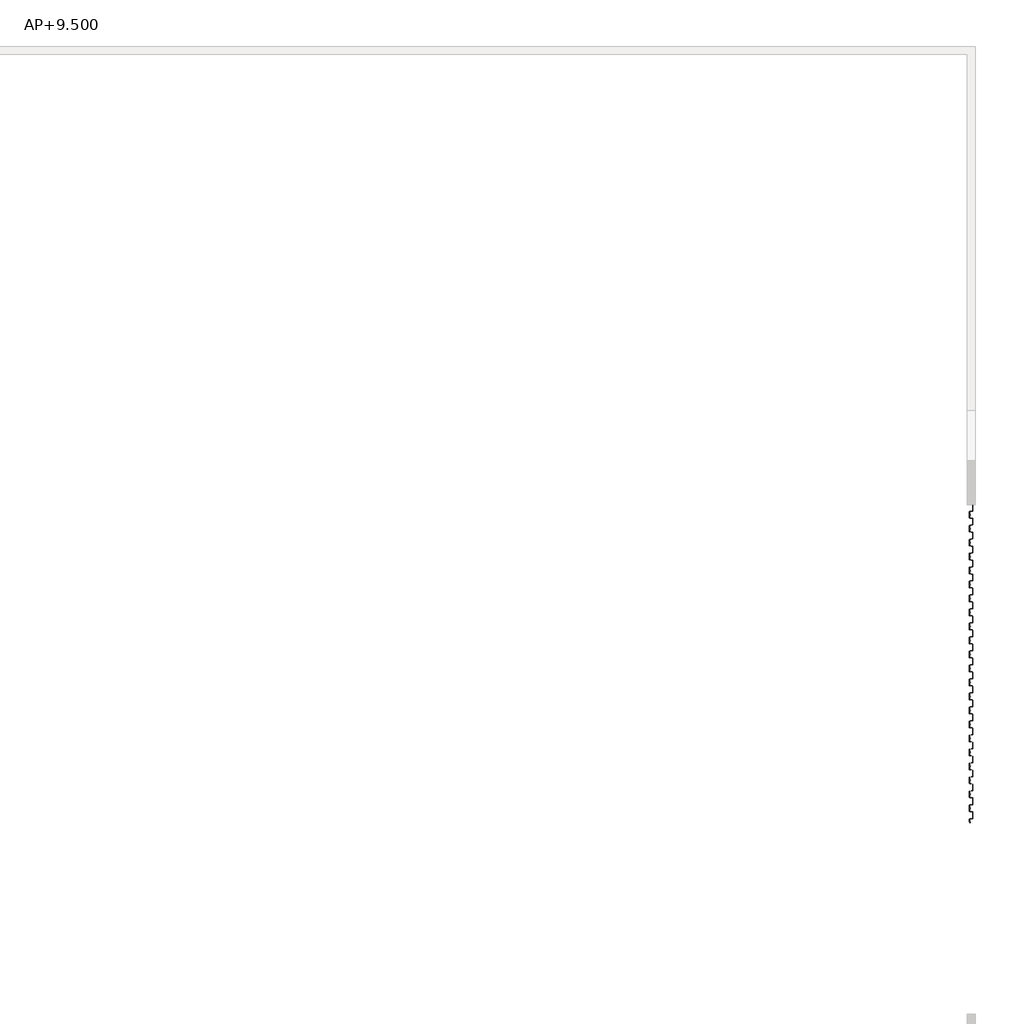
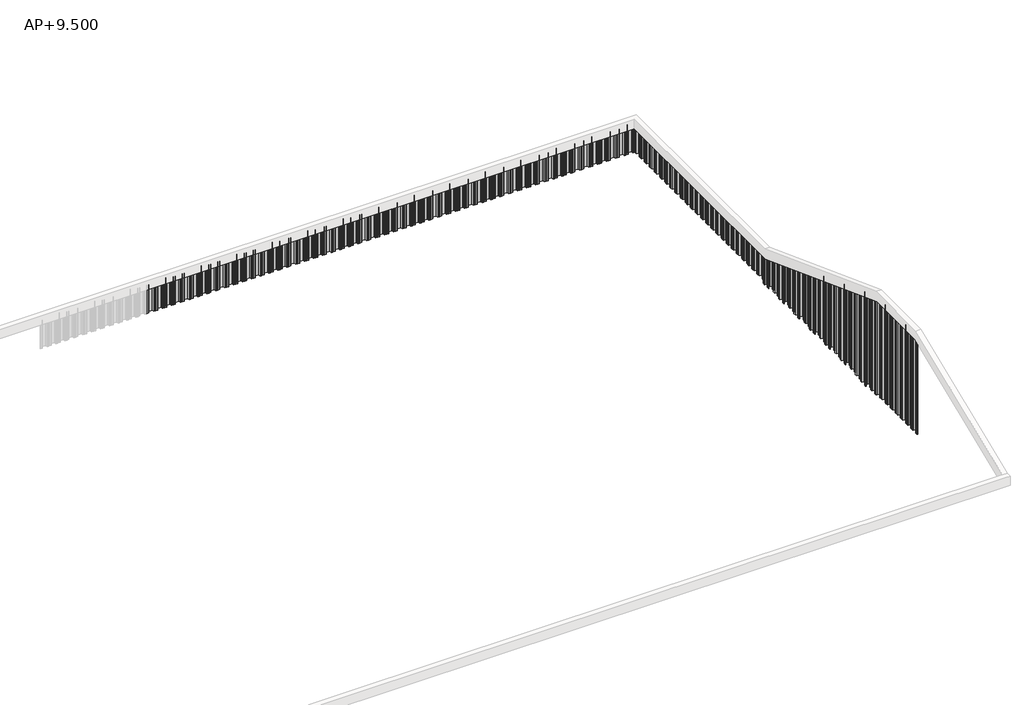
# One storey, part 3 of 3: 110 proxies.
"""IFC4 building model written with IfcOpenShell, lengths in millimetres."""

from ifc_helpers import new_model, si_unit, origin, place, context, project, spatial, transform, mapped, element, save
from components import generic_models_baafeade, generic_models_7553901d, generic_models_cdec1266, generic_models_6a52f8d3, generic_models_769bab11, generic_models_eddb28b0, generic_models_b851e550, generic_models_f981eec5, generic_models_fa2cd2e8, generic_models_5c6d3e61, generic_models_5d25678b, generic_models_d380ba2e, generic_models_831c492c, generic_models_77be9fe8, generic_models_16d24312, generic_models_580ca2bd

model = new_model("IFC4")

# Units and contexts
model_context = context("Model", 3, world=origin())
ifc_project = project(units=[si_unit("LENGTHUNIT", "METRE", prefix="MILLI")], contexts=[model_context])

# Site, building, storey
site = spatial("IfcSite", under=ifc_project)
building = spatial("IfcBuilding", under=site)
storey = spatial("IfcBuildingStorey", under=building, Name="AP+9.500", Elevation=9500.0)

# Proxies
placement = place(None, origin())
generic_models_shape = generic_models_baafeade(model_context)
element("IfcBuildingElementProxy", 1, Name="鋼矢板10H型 : 鋼矢板10H型", ObjectType="鋼矢板10H型 : 鋼矢板10H型", at=placement, inside=storey, context=model_context, shape_type="MappedRepresentation", body=[
    mapped(generic_models_shape, transform((89232.0, 49750.0, 8850.0), x_axis=(1.0, 0.0, 0.0), y_axis=(0.0, 1.0, 0.0), z_axis=(0.0, 0.0, 1.0))),
])
element("IfcBuildingElementProxy", 2, Name="鋼矢板10H型 : 鋼矢板10H型", ObjectType="鋼矢板10H型 : 鋼矢板10H型", at=placement, inside=storey, context=model_context, shape_type="MappedRepresentation", body=[
    mapped(generic_models_shape, transform((89754.0, 49105.0, 8850.0), x_axis=(0.0, -1.0, 0.0), y_axis=(1.0, 0.0, 0.0), z_axis=(0.0, 0.0, 1.0))),
])
element("IfcBuildingElementProxy", 3, Name="鋼矢板10H型 : 鋼矢板10H型", ObjectType="鋼矢板10H型 : 鋼矢板10H型", at=placement, inside=storey, context=model_context, shape_type="MappedRepresentation", body=[
    mapped(generic_models_shape, transform((88332.0, 49750.0, 8850.0), x_axis=(1.0, 0.0, 0.0), y_axis=(0.0, 1.0, 0.0), z_axis=(0.0, 0.0, 1.0))),
])
element("IfcBuildingElementProxy", 4, Name="鋼矢板10H型 : 鋼矢板10H型", ObjectType="鋼矢板10H型 : 鋼矢板10H型", at=placement, inside=storey, context=model_context, shape_type="MappedRepresentation", body=[
    mapped(generic_models_shape, transform((87432.0, 49750.0, 8850.0), x_axis=(1.0, 0.0, 0.0), y_axis=(0.0, 1.0, 0.0), z_axis=(0.0, 0.0, 1.0))),
])
element("IfcBuildingElementProxy", 5, Name="鋼矢板10H型 : 鋼矢板10H型", ObjectType="鋼矢板10H型 : 鋼矢板10H型", at=placement, inside=storey, context=model_context, shape_type="MappedRepresentation", body=[
    mapped(generic_models_shape, transform((86532.0, 49750.0, 8850.0), x_axis=(1.0, 0.0, 0.0), y_axis=(0.0, 1.0, 0.0), z_axis=(0.0, 0.0, 1.0))),
])
element("IfcBuildingElementProxy", 6, Name="鋼矢板10H型 : 鋼矢板10H型", ObjectType="鋼矢板10H型 : 鋼矢板10H型", at=placement, inside=storey, context=model_context, shape_type="MappedRepresentation", body=[
    mapped(generic_models_shape, transform((85632.0, 49750.0, 8850.0), x_axis=(1.0, 0.0, 0.0), y_axis=(0.0, 1.0, 0.0), z_axis=(0.0, 0.0, 1.0))),
])
element("IfcBuildingElementProxy", 7, Name="鋼矢板10H型 : 鋼矢板10H型", ObjectType="鋼矢板10H型 : 鋼矢板10H型", at=placement, inside=storey, context=model_context, shape_type="MappedRepresentation", body=[
    mapped(generic_models_shape, transform((84732.0, 49750.0, 8850.0), x_axis=(1.0, 0.0, 0.0), y_axis=(0.0, 1.0, 0.0), z_axis=(0.0, 0.0, 1.0))),
])
element("IfcBuildingElementProxy", 8, Name="鋼矢板10H型 : 鋼矢板10H型", ObjectType="鋼矢板10H型 : 鋼矢板10H型", at=placement, inside=storey, context=model_context, shape_type="MappedRepresentation", body=[
    mapped(generic_models_shape, transform((83832.0, 49750.0, 8850.0), x_axis=(1.0, 0.0, 0.0), y_axis=(0.0, 1.0, 0.0), z_axis=(0.0, 0.0, 1.0))),
])
element("IfcBuildingElementProxy", 9, Name="鋼矢板10H型 : 鋼矢板10H型", ObjectType="鋼矢板10H型 : 鋼矢板10H型", at=placement, inside=storey, context=model_context, shape_type="MappedRepresentation", body=[
    mapped(generic_models_shape, transform((82932.0, 49750.0, 8850.0), x_axis=(1.0, 0.0, 0.0), y_axis=(0.0, 1.0, 0.0), z_axis=(0.0, 0.0, 1.0))),
])
element("IfcBuildingElementProxy", 10, Name="鋼矢板10H型 : 鋼矢板10H型", ObjectType="鋼矢板10H型 : 鋼矢板10H型", at=placement, inside=storey, context=model_context, shape_type="MappedRepresentation", body=[
    mapped(generic_models_shape, transform((82032.0, 49750.0, 8850.0), x_axis=(1.0, 0.0, 0.0), y_axis=(0.0, 1.0, 0.0), z_axis=(0.0, 0.0, 1.0))),
])
element("IfcBuildingElementProxy", 11, Name="鋼矢板10H型 : 鋼矢板10H型", ObjectType="鋼矢板10H型 : 鋼矢板10H型", at=placement, inside=storey, context=model_context, shape_type="MappedRepresentation", body=[
    mapped(generic_models_shape, transform((81132.0, 49750.0, 8850.0), x_axis=(1.0, 0.0, 0.0), y_axis=(0.0, 1.0, 0.0), z_axis=(0.0, 0.0, 1.0))),
])
element("IfcBuildingElementProxy", 12, Name="鋼矢板10H型 : 鋼矢板10H型", ObjectType="鋼矢板10H型 : 鋼矢板10H型", at=placement, inside=storey, context=model_context, shape_type="MappedRepresentation", body=[
    mapped(generic_models_shape, transform((80232.0, 49750.0, 8850.0), x_axis=(1.0, 0.0, 0.0), y_axis=(0.0, 1.0, 0.0), z_axis=(0.0, 0.0, 1.0))),
])
element("IfcBuildingElementProxy", 13, Name="鋼矢板10H型 : 鋼矢板10H型", ObjectType="鋼矢板10H型 : 鋼矢板10H型", at=placement, inside=storey, context=model_context, shape_type="MappedRepresentation", body=[
    mapped(generic_models_shape, transform((79332.0, 49750.0, 8850.0), x_axis=(1.0, 0.0, 0.0), y_axis=(0.0, 1.0, 0.0), z_axis=(0.0, 0.0, 1.0))),
])
element("IfcBuildingElementProxy", 14, Name="鋼矢板10H型 : 鋼矢板10H型", ObjectType="鋼矢板10H型 : 鋼矢板10H型", at=placement, inside=storey, context=model_context, shape_type="MappedRepresentation", body=[
    mapped(generic_models_shape, transform((78432.0, 49750.0, 8850.0), x_axis=(1.0, 0.0, 0.0), y_axis=(0.0, 1.0, 0.0), z_axis=(0.0, 0.0, 1.0))),
])
element("IfcBuildingElementProxy", 15, Name="鋼矢板10H型 : 鋼矢板10H型", ObjectType="鋼矢板10H型 : 鋼矢板10H型", at=placement, inside=storey, context=model_context, shape_type="MappedRepresentation", body=[
    mapped(generic_models_shape, transform((77532.0, 49750.0, 8850.0), x_axis=(1.0, 0.0, 0.0), y_axis=(0.0, 1.0, 0.0), z_axis=(0.0, 0.0, 1.0))),
])
element("IfcBuildingElementProxy", 16, Name="鋼矢板10H型 : 鋼矢板10H型", ObjectType="鋼矢板10H型 : 鋼矢板10H型", at=placement, inside=storey, context=model_context, shape_type="MappedRepresentation", body=[
    mapped(generic_models_shape, transform((76632.0, 49750.0, 8850.0), x_axis=(1.0, 0.0, 0.0), y_axis=(0.0, 1.0, 0.0), z_axis=(0.0, 0.0, 1.0))),
])
element("IfcBuildingElementProxy", 17, Name="鋼矢板10H型 : 鋼矢板10H型", ObjectType="鋼矢板10H型 : 鋼矢板10H型", at=placement, inside=storey, context=model_context, shape_type="MappedRepresentation", body=[
    mapped(generic_models_shape, transform((75732.0, 49750.0, 8850.0), x_axis=(1.0, 0.0, 0.0), y_axis=(0.0, 1.0, 0.0), z_axis=(0.0, 0.0, 1.0))),
])
element("IfcBuildingElementProxy", 18, Name="鋼矢板10H型 : 鋼矢板10H型", ObjectType="鋼矢板10H型 : 鋼矢板10H型", at=placement, inside=storey, context=model_context, shape_type="MappedRepresentation", body=[
    mapped(generic_models_shape, transform((74832.0, 49750.0, 8850.0), x_axis=(1.0, 0.0, 0.0), y_axis=(0.0, 1.0, 0.0), z_axis=(0.0, 0.0, 1.0))),
])
element("IfcBuildingElementProxy", 19, Name="鋼矢板10H型 : 鋼矢板10H型", ObjectType="鋼矢板10H型 : 鋼矢板10H型", at=placement, inside=storey, context=model_context, shape_type="MappedRepresentation", body=[
    mapped(generic_models_shape, transform((73932.0, 49750.0, 8850.0), x_axis=(1.0, 0.0, 0.0), y_axis=(0.0, 1.0, 0.0), z_axis=(0.0, 0.0, 1.0))),
])
element("IfcBuildingElementProxy", 20, Name="鋼矢板10H型 : 鋼矢板10H型", ObjectType="鋼矢板10H型 : 鋼矢板10H型", at=placement, inside=storey, context=model_context, shape_type="MappedRepresentation", body=[
    mapped(generic_models_shape, transform((73032.0, 49750.0, 8850.0), x_axis=(1.0, 0.0, 0.0), y_axis=(0.0, 1.0, 0.0), z_axis=(0.0, 0.0, 1.0))),
])
element("IfcBuildingElementProxy", 21, Name="鋼矢板10H型 : 鋼矢板10H型", ObjectType="鋼矢板10H型 : 鋼矢板10H型", at=placement, inside=storey, context=model_context, shape_type="MappedRepresentation", body=[
    mapped(generic_models_shape, transform((72132.0, 49750.0, 8850.0), x_axis=(1.0, 0.0, 0.0), y_axis=(0.0, 1.0, 0.0), z_axis=(0.0, 0.0, 1.0))),
])
element("IfcBuildingElementProxy", 22, Name="鋼矢板10H型 : 鋼矢板10H型", ObjectType="鋼矢板10H型 : 鋼矢板10H型", at=placement, inside=storey, context=model_context, shape_type="MappedRepresentation", body=[
    mapped(generic_models_shape, transform((71232.0, 49750.0, 8850.0), x_axis=(1.0, 0.0, 0.0), y_axis=(0.0, 1.0, 0.0), z_axis=(0.0, 0.0, 1.0))),
])
element("IfcBuildingElementProxy", 23, Name="鋼矢板10H型 : 鋼矢板10H型", ObjectType="鋼矢板10H型 : 鋼矢板10H型", at=placement, inside=storey, context=model_context, shape_type="MappedRepresentation", body=[
    mapped(generic_models_shape, transform((70332.0, 49750.0, 8850.0), x_axis=(1.0, 0.0, 0.0), y_axis=(0.0, 1.0, 0.0), z_axis=(0.0, 0.0, 1.0))),
])
element("IfcBuildingElementProxy", 24, Name="鋼矢板10H型 : 鋼矢板10H型", ObjectType="鋼矢板10H型 : 鋼矢板10H型", at=placement, inside=storey, context=model_context, shape_type="MappedRepresentation", body=[
    mapped(generic_models_shape, transform((69432.0, 49750.0, 8850.0), x_axis=(1.0, 0.0, 0.0), y_axis=(0.0, 1.0, 0.0), z_axis=(0.0, 0.0, 1.0))),
])
element("IfcBuildingElementProxy", 25, Name="鋼矢板10H型 : 鋼矢板10H型", ObjectType="鋼矢板10H型 : 鋼矢板10H型", at=placement, inside=storey, context=model_context, shape_type="MappedRepresentation", body=[
    mapped(generic_models_shape, transform((68532.0, 49750.0, 8850.0), x_axis=(1.0, 0.0, 0.0), y_axis=(0.0, 1.0, 0.0), z_axis=(0.0, 0.0, 1.0))),
])
element("IfcBuildingElementProxy", 26, Name="鋼矢板10H型 : 鋼矢板10H型", ObjectType="鋼矢板10H型 : 鋼矢板10H型", at=placement, inside=storey, context=model_context, shape_type="MappedRepresentation", body=[
    mapped(generic_models_shape, transform((67632.0, 49750.0, 8850.0), x_axis=(1.0, 0.0, 0.0), y_axis=(0.0, 1.0, 0.0), z_axis=(0.0, 0.0, 1.0))),
])
element("IfcBuildingElementProxy", 27, Name="鋼矢板10H型 : 鋼矢板10H型", ObjectType="鋼矢板10H型 : 鋼矢板10H型", at=placement, inside=storey, context=model_context, shape_type="MappedRepresentation", body=[
    mapped(generic_models_shape, transform((66732.0, 49750.0, 8850.0), x_axis=(1.0, 0.0, 0.0), y_axis=(0.0, 1.0, 0.0), z_axis=(0.0, 0.0, 1.0))),
])
element("IfcBuildingElementProxy", 28, Name="鋼矢板10H型 : 鋼矢板10H型", ObjectType="鋼矢板10H型 : 鋼矢板10H型", at=placement, inside=storey, context=model_context, shape_type="MappedRepresentation", body=[
    mapped(generic_models_shape, transform((65832.0, 49750.0, 8850.0), x_axis=(1.0, 0.0, 0.0), y_axis=(0.0, 1.0, 0.0), z_axis=(0.0, 0.0, 1.0))),
])
element("IfcBuildingElementProxy", 29, Name="鋼矢板10H型 : 鋼矢板10H型", ObjectType="鋼矢板10H型 : 鋼矢板10H型", at=placement, inside=storey, context=model_context, shape_type="MappedRepresentation", body=[
    mapped(generic_models_shape, transform((64932.0, 49750.0, 8850.0), x_axis=(1.0, 0.0, 0.0), y_axis=(0.0, 1.0, 0.0), z_axis=(0.0, 0.0, 1.0))),
])
element("IfcBuildingElementProxy", 30, Name="鋼矢板10H型 : 鋼矢板10H型", ObjectType="鋼矢板10H型 : 鋼矢板10H型", at=placement, inside=storey, context=model_context, shape_type="MappedRepresentation", body=[
    mapped(generic_models_shape, transform((64032.0, 49750.0, 8850.0), x_axis=(1.0, 0.0, 0.0), y_axis=(0.0, 1.0, 0.0), z_axis=(0.0, 0.0, 1.0))),
])
element("IfcBuildingElementProxy", 31, Name="鋼矢板10H型 : 鋼矢板10H型", ObjectType="鋼矢板10H型 : 鋼矢板10H型", at=placement, inside=storey, context=model_context, shape_type="MappedRepresentation", body=[
    mapped(generic_models_shape, transform((63132.0, 49750.0, 8850.0), x_axis=(1.0, 0.0, 0.0), y_axis=(0.0, 1.0, 0.0), z_axis=(0.0, 0.0, 1.0))),
])
element("IfcBuildingElementProxy", 32, Name="鋼矢板10H型 : 鋼矢板10H型", ObjectType="鋼矢板10H型 : 鋼矢板10H型", at=placement, inside=storey, context=model_context, shape_type="MappedRepresentation", body=[
    mapped(generic_models_shape, transform((62232.0, 49750.0, 8850.0), x_axis=(1.0, 0.0, 0.0), y_axis=(0.0, 1.0, 0.0), z_axis=(0.0, 0.0, 1.0))),
])
element("IfcBuildingElementProxy", 33, Name="鋼矢板10H型 : 鋼矢板10H型", ObjectType="鋼矢板10H型 : 鋼矢板10H型", at=placement, inside=storey, context=model_context, shape_type="MappedRepresentation", body=[
    mapped(generic_models_shape, transform((61332.0, 49750.0, 8850.0), x_axis=(1.0, 0.0, 0.0), y_axis=(0.0, 1.0, 0.0), z_axis=(0.0, 0.0, 1.0))),
])
element("IfcBuildingElementProxy", 34, Name="鋼矢板10H型 : 鋼矢板10H型", ObjectType="鋼矢板10H型 : 鋼矢板10H型", at=placement, inside=storey, context=model_context, shape_type="MappedRepresentation", body=[
    mapped(generic_models_shape, transform((60432.0, 49750.0, 8850.0), x_axis=(1.0, 0.0, 0.0), y_axis=(0.0, 1.0, 0.0), z_axis=(0.0, 0.0, 1.0))),
])
element("IfcBuildingElementProxy", 35, Name="鋼矢板10H型 : 鋼矢板10H型", ObjectType="鋼矢板10H型 : 鋼矢板10H型", at=placement, inside=storey, context=model_context, shape_type="MappedRepresentation", body=[
    mapped(generic_models_shape, transform((59532.0, 49750.0, 8850.0), x_axis=(1.0, 0.0, 0.0), y_axis=(0.0, 1.0, 0.0), z_axis=(0.0, 0.0, 1.0))),
])
element("IfcBuildingElementProxy", 36, Name="鋼矢板10H型 : 鋼矢板10H型", ObjectType="鋼矢板10H型 : 鋼矢板10H型", at=placement, inside=storey, context=model_context, shape_type="MappedRepresentation", body=[
    mapped(generic_models_shape, transform((58632.0, 49750.0, 8850.0), x_axis=(1.0, 0.0, 0.0), y_axis=(0.0, 1.0, 0.0), z_axis=(0.0, 0.0, 1.0))),
])
element("IfcBuildingElementProxy", 37, Name="鋼矢板10H型 : 鋼矢板10H型", ObjectType="鋼矢板10H型 : 鋼矢板10H型", at=placement, inside=storey, context=model_context, shape_type="MappedRepresentation", body=[
    mapped(generic_models_shape, transform((57732.0, 49750.0, 8850.0), x_axis=(1.0, 0.0, 0.0), y_axis=(0.0, 1.0, 0.0), z_axis=(0.0, 0.0, 1.0))),
])
element("IfcBuildingElementProxy", 38, Name="鋼矢板10H型 : 鋼矢板10H型", ObjectType="鋼矢板10H型 : 鋼矢板10H型", at=placement, inside=storey, context=model_context, shape_type="MappedRepresentation", body=[
    mapped(generic_models_shape, transform((56832.0, 49750.0, 8850.0), x_axis=(1.0, 0.0, 0.0), y_axis=(0.0, 1.0, 0.0), z_axis=(0.0, 0.0, 1.0))),
])
element("IfcBuildingElementProxy", 39, Name="鋼矢板10H型 : 鋼矢板10H型", ObjectType="鋼矢板10H型 : 鋼矢板10H型", at=placement, inside=storey, context=model_context, shape_type="MappedRepresentation", body=[
    mapped(generic_models_shape, transform((55932.0, 49750.0, 8850.0), x_axis=(1.0, 0.0, 0.0), y_axis=(0.0, 1.0, 0.0), z_axis=(0.0, 0.0, 1.0))),
])
element("IfcBuildingElementProxy", 40, Name="鋼矢板10H型 : 鋼矢板10H型", ObjectType="鋼矢板10H型 : 鋼矢板10H型", at=placement, inside=storey, context=model_context, shape_type="MappedRepresentation", body=[
    mapped(generic_models_shape, transform((55032.0, 49750.0, 8850.0), x_axis=(1.0, 0.0, 0.0), y_axis=(0.0, 1.0, 0.0), z_axis=(0.0, 0.0, 1.0))),
])
element("IfcBuildingElementProxy", 41, Name="鋼矢板10H型 : 鋼矢板10H型", ObjectType="鋼矢板10H型 : 鋼矢板10H型", at=placement, inside=storey, context=model_context, shape_type="MappedRepresentation", body=[
    mapped(generic_models_shape, transform((54132.0, 49750.0, 8850.0), x_axis=(1.0, 0.0, 0.0), y_axis=(0.0, 1.0, 0.0), z_axis=(0.0, 0.0, 1.0))),
])
element("IfcBuildingElementProxy", 42, Name="鋼矢板10H型 : 鋼矢板10H型", ObjectType="鋼矢板10H型 : 鋼矢板10H型", at=placement, inside=storey, context=model_context, shape_type="MappedRepresentation", body=[
    mapped(generic_models_shape, transform((53232.0, 49750.0, 8850.0), x_axis=(1.0, 0.0, 0.0), y_axis=(0.0, 1.0, 0.0), z_axis=(0.0, 0.0, 1.0))),
])
element("IfcBuildingElementProxy", 43, Name="鋼矢板10H型 : 鋼矢板10H型", ObjectType="鋼矢板10H型 : 鋼矢板10H型", at=placement, inside=storey, context=model_context, shape_type="MappedRepresentation", body=[
    mapped(generic_models_shape, transform((52332.0, 49750.0, 8850.0), x_axis=(1.0, 0.0, 0.0), y_axis=(0.0, 1.0, 0.0), z_axis=(0.0, 0.0, 1.0))),
])
element("IfcBuildingElementProxy", 44, Name="鋼矢板10H型 : 鋼矢板10H型", ObjectType="鋼矢板10H型 : 鋼矢板10H型", at=placement, inside=storey, context=model_context, shape_type="MappedRepresentation", body=[
    mapped(generic_models_shape, transform((51432.0, 49750.0, 8850.0), x_axis=(1.0, 0.0, 0.0), y_axis=(0.0, 1.0, 0.0), z_axis=(0.0, 0.0, 1.0))),
])
element("IfcBuildingElementProxy", 45, Name="鋼矢板10H型 : 鋼矢板10H型", ObjectType="鋼矢板10H型 : 鋼矢板10H型", at=placement, inside=storey, context=model_context, shape_type="MappedRepresentation", body=[
    mapped(generic_models_shape, transform((50532.0, 49750.0, 8850.0), x_axis=(1.0, 0.0, 0.0), y_axis=(0.0, 1.0, 0.0), z_axis=(0.0, 0.0, 1.0))),
])
element("IfcBuildingElementProxy", 46, Name="鋼矢板10H型 : 鋼矢板10H型", ObjectType="鋼矢板10H型 : 鋼矢板10H型", at=placement, inside=storey, context=model_context, shape_type="MappedRepresentation", body=[
    mapped(generic_models_shape, transform((49632.0, 49750.0, 8850.0), x_axis=(1.0, 0.0, 0.0), y_axis=(0.0, 1.0, 0.0), z_axis=(0.0, 0.0, 1.0))),
])
element("IfcBuildingElementProxy", 47, Name="鋼矢板10H型 : 鋼矢板10H型", ObjectType="鋼矢板10H型 : 鋼矢板10H型", at=placement, inside=storey, context=model_context, shape_type="MappedRepresentation", body=[
    mapped(generic_models_shape, transform((48732.0, 49750.0, 8850.0), x_axis=(1.0, 0.0, 0.0), y_axis=(0.0, 1.0, 0.0), z_axis=(0.0, 0.0, 1.0))),
])
element("IfcBuildingElementProxy", 48, Name="鋼矢板10H型 : 鋼矢板10H型", ObjectType="鋼矢板10H型 : 鋼矢板10H型", at=placement, inside=storey, context=model_context, shape_type="MappedRepresentation", body=[
    mapped(generic_models_shape, transform((47832.0, 49750.0, 8850.0), x_axis=(1.0, 0.0, 0.0), y_axis=(0.0, 1.0, 0.0), z_axis=(0.0, 0.0, 1.0))),
])
element("IfcBuildingElementProxy", 49, Name="鋼矢板10H型 : 鋼矢板10H型", ObjectType="鋼矢板10H型 : 鋼矢板10H型", at=placement, inside=storey, context=model_context, shape_type="MappedRepresentation", body=[
    mapped(generic_models_shape, transform((46932.0, 49750.0, 8850.0), x_axis=(1.0, 0.0, 0.0), y_axis=(0.0, 1.0, 0.0), z_axis=(0.0, 0.0, 1.0))),
])
element("IfcBuildingElementProxy", 50, Name="鋼矢板10H型 : 鋼矢板10H型", ObjectType="鋼矢板10H型 : 鋼矢板10H型", at=placement, inside=storey, context=model_context, shape_type="MappedRepresentation", body=[
    mapped(generic_models_shape, transform((46032.0, 49750.0, 8850.0), x_axis=(1.0, 0.0, 0.0), y_axis=(0.0, 1.0, 0.0), z_axis=(0.0, 0.0, 1.0))),
])
element("IfcBuildingElementProxy", 51, Name="鋼矢板10H型 : 鋼矢板10H型", ObjectType="鋼矢板10H型 : 鋼矢板10H型", at=placement, inside=storey, context=model_context, shape_type="MappedRepresentation", body=[
    mapped(generic_models_shape, transform((45132.0, 49750.0, 8850.0), x_axis=(1.0, 0.0, 0.0), y_axis=(0.0, 1.0, 0.0), z_axis=(0.0, 0.0, 1.0))),
])
element("IfcBuildingElementProxy", 52, Name="鋼矢板10H型 : 鋼矢板10H型", ObjectType="鋼矢板10H型 : 鋼矢板10H型", at=placement, inside=storey, context=model_context, shape_type="MappedRepresentation", body=[
    mapped(generic_models_shape, transform((44232.0, 49750.0, 8850.0), x_axis=(1.0, 0.0, 0.0), y_axis=(0.0, 1.0, 0.0), z_axis=(0.0, 0.0, 1.0))),
])
element("IfcBuildingElementProxy", 53, Name="鋼矢板10H型 : 鋼矢板10H型", ObjectType="鋼矢板10H型 : 鋼矢板10H型", at=placement, inside=storey, context=model_context, shape_type="MappedRepresentation", body=[
    mapped(generic_models_shape, transform((43332.0, 49750.0, 8850.0), x_axis=(1.0, 0.0, 0.0), y_axis=(0.0, 1.0, 0.0), z_axis=(0.0, 0.0, 1.0))),
])
element("IfcBuildingElementProxy", 54, Name="鋼矢板10H型 : 鋼矢板10H型", ObjectType="鋼矢板10H型 : 鋼矢板10H型", at=placement, inside=storey, context=model_context, shape_type="MappedRepresentation", body=[
    mapped(generic_models_shape, transform((42432.0, 49750.0, 8850.0), x_axis=(1.0, 0.0, 0.0), y_axis=(0.0, 1.0, 0.0), z_axis=(0.0, 0.0, 1.0))),
])
element("IfcBuildingElementProxy", 55, Name="鋼矢板10H型 : 鋼矢板10H型", ObjectType="鋼矢板10H型 : 鋼矢板10H型", at=placement, inside=storey, context=model_context, shape_type="MappedRepresentation", body=[
    mapped(generic_models_shape, transform((41532.0, 49750.0, 8850.0), x_axis=(1.0, 0.0, 0.0), y_axis=(0.0, 1.0, 0.0), z_axis=(0.0, 0.0, 1.0))),
])
element("IfcBuildingElementProxy", 56, Name="鋼矢板10H型 : 鋼矢板10H型", ObjectType="鋼矢板10H型 : 鋼矢板10H型", at=placement, inside=storey, context=model_context, shape_type="MappedRepresentation", body=[
    mapped(generic_models_shape, transform((40632.0, 49750.0, 8850.0), x_axis=(1.0, 0.0, 0.0), y_axis=(0.0, 1.0, 0.0), z_axis=(0.0, 0.0, 1.0))),
])
element("IfcBuildingElementProxy", 57, Name="鋼矢板10H型 : 鋼矢板10H型", ObjectType="鋼矢板10H型 : 鋼矢板10H型", at=placement, inside=storey, context=model_context, shape_type="MappedRepresentation", body=[
    mapped(generic_models_shape, transform((89754.0, 48205.0, 8850.0), x_axis=(0.0, -1.0, 0.0), y_axis=(1.0, 0.0, 0.0), z_axis=(0.0, 0.0, 1.0))),
])
element("IfcBuildingElementProxy", 58, Name="鋼矢板10H型 : 鋼矢板10H型", ObjectType="鋼矢板10H型 : 鋼矢板10H型", at=placement, inside=storey, context=model_context, shape_type="MappedRepresentation", body=[
    mapped(generic_models_shape, transform((89754.0, 47305.0, 8850.0), x_axis=(0.0, -1.0, 0.0), y_axis=(1.0, 0.0, 0.0), z_axis=(0.0, 0.0, 1.0))),
])
element("IfcBuildingElementProxy", 59, Name="鋼矢板10H型 : 鋼矢板10H型", ObjectType="鋼矢板10H型 : 鋼矢板10H型", at=placement, inside=storey, context=model_context, shape_type="MappedRepresentation", body=[
    mapped(generic_models_shape, transform((89754.0, 46405.0, 8850.0), x_axis=(0.0, -1.0, 0.0), y_axis=(1.0, 0.0, 0.0), z_axis=(0.0, 0.0, 1.0))),
])
element("IfcBuildingElementProxy", 60, Name="鋼矢板10H型 : 鋼矢板10H型", ObjectType="鋼矢板10H型 : 鋼矢板10H型", at=placement, inside=storey, context=model_context, shape_type="MappedRepresentation", body=[
    mapped(generic_models_shape, transform((89754.0, 45505.0, 8850.0), x_axis=(0.0, -1.0, 0.0), y_axis=(1.0, 0.0, 0.0), z_axis=(0.0, 0.0, 1.0))),
])
element("IfcBuildingElementProxy", 61, Name="鋼矢板10H型 : 鋼矢板10H型", ObjectType="鋼矢板10H型 : 鋼矢板10H型", at=placement, inside=storey, context=model_context, shape_type="MappedRepresentation", body=[
    mapped(generic_models_shape, transform((89754.0, 44605.0, 8850.0), x_axis=(0.0, -1.0, 0.0), y_axis=(1.0, 0.0, 0.0), z_axis=(0.0, 0.0, 1.0))),
])
element("IfcBuildingElementProxy", 62, Name="鋼矢板10H型 : 鋼矢板10H型", ObjectType="鋼矢板10H型 : 鋼矢板10H型", at=placement, inside=storey, context=model_context, shape_type="MappedRepresentation", body=[
    mapped(generic_models_shape, transform((89754.0, 43705.0, 8850.0), x_axis=(0.0, -1.0, 0.0), y_axis=(1.0, 0.0, 0.0), z_axis=(0.0, 0.0, 1.0))),
])
element("IfcBuildingElementProxy", 63, Name="鋼矢板10H型 : 鋼矢板10H型", ObjectType="鋼矢板10H型 : 鋼矢板10H型", at=placement, inside=storey, context=model_context, shape_type="MappedRepresentation", body=[
    mapped(generic_models_shape, transform((89754.0, 42805.0, 8850.0), x_axis=(0.0, -1.0, 0.0), y_axis=(1.0, 0.0, 0.0), z_axis=(0.0, 0.0, 1.0))),
])
element("IfcBuildingElementProxy", 64, Name="鋼矢板10H型 : 鋼矢板10H型", ObjectType="鋼矢板10H型 : 鋼矢板10H型", at=placement, inside=storey, context=model_context, shape_type="MappedRepresentation", body=[
    mapped(generic_models_shape, transform((89754.0, 41905.0, 8850.0), x_axis=(0.0, -1.0, 0.0), y_axis=(1.0, 0.0, 0.0), z_axis=(0.0, 0.0, 1.0))),
])
element("IfcBuildingElementProxy", 65, Name="鋼矢板10H型 : 鋼矢板10H型", ObjectType="鋼矢板10H型 : 鋼矢板10H型", at=placement, inside=storey, context=model_context, shape_type="MappedRepresentation", body=[
    mapped(generic_models_shape, transform((89754.0, 41005.0, 8850.0), x_axis=(0.0, -1.0, 0.0), y_axis=(1.0, 0.0, 0.0), z_axis=(0.0, 0.0, 1.0))),
])
element("IfcBuildingElementProxy", 66, Name="鋼矢板10H型 : 鋼矢板10H型", ObjectType="鋼矢板10H型 : 鋼矢板10H型", at=placement, inside=storey, context=model_context, shape_type="MappedRepresentation", body=[
    mapped(generic_models_shape, transform((89754.0, 40105.0, 8850.0), x_axis=(0.0, -1.0, 0.0), y_axis=(1.0, 0.0, 0.0), z_axis=(0.0, 0.0, 1.0))),
])
element("IfcBuildingElementProxy", 67, Name="鋼矢板10H型 : 鋼矢板10H型", ObjectType="鋼矢板10H型 : 鋼矢板10H型", at=placement, inside=storey, context=model_context, shape_type="MappedRepresentation", body=[
    mapped(generic_models_shape, transform((89754.0, 39205.0, 8850.0), x_axis=(0.0, -1.0, 0.0), y_axis=(1.0, 0.0, 0.0), z_axis=(0.0, 0.0, 1.0))),
])
element("IfcBuildingElementProxy", 68, Name="鋼矢板10H型 : 鋼矢板10H型", ObjectType="鋼矢板10H型 : 鋼矢板10H型", at=placement, inside=storey, context=model_context, shape_type="MappedRepresentation", body=[
    mapped(generic_models_shape, transform((89754.0, 38305.0, 8850.0), x_axis=(0.0, -1.0, 0.0), y_axis=(1.0, 0.0, 0.0), z_axis=(0.0, 0.0, 1.0))),
])
element("IfcBuildingElementProxy", 69, Name="鋼矢板10H型 : 鋼矢板10H型", ObjectType="鋼矢板10H型 : 鋼矢板10H型", at=placement, inside=storey, context=model_context, shape_type="MappedRepresentation", body=[
    mapped(generic_models_shape, transform((89754.0, 37405.0, 8850.0), x_axis=(0.0, -1.0, 0.0), y_axis=(1.0, 0.0, 0.0), z_axis=(0.0, 0.0, 1.0))),
])
element("IfcBuildingElementProxy", 70, Name="鋼矢板10H型 : 鋼矢板10H型", ObjectType="鋼矢板10H型 : 鋼矢板10H型", at=placement, inside=storey, context=model_context, shape_type="MappedRepresentation", body=[
    mapped(generic_models_shape, transform((89754.0, 36505.0, 8850.0), x_axis=(0.0, -1.0, 0.0), y_axis=(1.0, 0.0, 0.0), z_axis=(0.0, 0.0, 1.0))),
])
element("IfcBuildingElementProxy", 71, Name="鋼矢板10H型 : 鋼矢板10H型", ObjectType="鋼矢板10H型 : 鋼矢板10H型", at=placement, inside=storey, context=model_context, shape_type="MappedRepresentation", body=[
    mapped(generic_models_shape, transform((89754.0, 35605.0, 8850.0), x_axis=(0.0, -1.0, 0.0), y_axis=(1.0, 0.0, 0.0), z_axis=(0.0, 0.0, 1.0))),
])
element("IfcBuildingElementProxy", 72, Name="鋼矢板10H型 : 鋼矢板10H型", ObjectType="鋼矢板10H型 : 鋼矢板10H型", at=placement, inside=storey, context=model_context, shape_type="MappedRepresentation", body=[
    mapped(generic_models_shape, transform((89754.0, 34705.0, 8850.0), x_axis=(0.0, -1.0, 0.0), y_axis=(1.0, 0.0, 0.0), z_axis=(0.0, 0.0, 1.0))),
])
element("IfcBuildingElementProxy", 73, Name="鋼矢板10H型 : 鋼矢板10H型", ObjectType="鋼矢板10H型 : 鋼矢板10H型", at=placement, inside=storey, context=model_context, shape_type="MappedRepresentation", body=[
    mapped(generic_models_shape, transform((89754.0, 33805.0, 8850.0), x_axis=(0.0, -1.0, 0.0), y_axis=(1.0, 0.0, 0.0), z_axis=(0.0, 0.0, 1.0))),
])
element("IfcBuildingElementProxy", 74, Name="鋼矢板10H型 : 鋼矢板10H型", ObjectType="鋼矢板10H型 : 鋼矢板10H型", at=placement, inside=storey, context=model_context, shape_type="MappedRepresentation", body=[
    mapped(generic_models_shape, transform((89754.0, 32905.0, 8850.0), x_axis=(0.0, -1.0, 0.0), y_axis=(1.0, 0.0, 0.0), z_axis=(0.0, 0.0, 1.0))),
])
element("IfcBuildingElementProxy", 75, Name="鋼矢板10H型 : 鋼矢板10H型", ObjectType="鋼矢板10H型 : 鋼矢板10H型", at=placement, inside=storey, context=model_context, shape_type="MappedRepresentation", body=[
    mapped(generic_models_shape, transform((89754.0, 32005.0, 8850.0), x_axis=(0.0, -1.0, 0.0), y_axis=(1.0, 0.0, 0.0), z_axis=(0.0, 0.0, 1.0))),
])
element("IfcBuildingElementProxy", 76, Name="鋼矢板10H型 : 鋼矢板10H型", ObjectType="鋼矢板10H型 : 鋼矢板10H型", at=placement, inside=storey, context=model_context, shape_type="MappedRepresentation", body=[
    mapped(generic_models_shape, transform((89754.0, 31105.0, 8850.0), x_axis=(0.0, -1.0, 0.0), y_axis=(1.0, 0.0, 0.0), z_axis=(0.0, 0.0, 1.0))),
])
element("IfcBuildingElementProxy", 77, Name="鋼矢板10H型 : 鋼矢板10H型", ObjectType="鋼矢板10H型 : 鋼矢板10H型", at=placement, inside=storey, context=model_context, shape_type="MappedRepresentation", body=[
    mapped(generic_models_shape, transform((89754.0, 30205.0, 8850.0), x_axis=(0.0, -1.0, 0.0), y_axis=(1.0, 0.0, 0.0), z_axis=(0.0, 0.0, 1.0))),
])
element("IfcBuildingElementProxy", 78, Name="鋼矢板10H型 : 鋼矢板10H型", ObjectType="鋼矢板10H型 : 鋼矢板10H型", at=placement, inside=storey, context=model_context, shape_type="MappedRepresentation", body=[
    mapped(generic_models_shape, transform((89754.0, 29305.0, 8850.0), x_axis=(0.0, -1.0, 0.0), y_axis=(1.0, 0.0, 0.0), z_axis=(0.0, 0.0, 1.0))),
])
element("IfcBuildingElementProxy", 79, Name="鋼矢板10H型 : 鋼矢板10H型", ObjectType="鋼矢板10H型 : 鋼矢板10H型", at=placement, inside=storey, context=model_context, shape_type="MappedRepresentation", body=[
    mapped(generic_models_shape, transform((89754.0, 28405.0, 8850.0), x_axis=(0.0, -1.0, 0.0), y_axis=(1.0, 0.0, 0.0), z_axis=(0.0, 0.0, 1.0))),
])
element("IfcBuildingElementProxy", 80, Name="鋼矢板10H型 : 鋼矢板10H型", ObjectType="鋼矢板10H型 : 鋼矢板10H型", at=placement, inside=storey, context=model_context, shape_type="MappedRepresentation", body=[
    mapped(generic_models_shape, transform((89754.0, 27505.0, 8850.0), x_axis=(0.0, -1.0, 0.0), y_axis=(1.0, 0.0, 0.0), z_axis=(0.0, 0.0, 1.0))),
])
generic_models_2_shape = generic_models_7553901d(model_context)
element("IfcBuildingElementProxy", 81, Name="鋼矢板10H型 : 鋼矢板10H型", ObjectType="鋼矢板10H型 : 鋼矢板10H型", at=placement, inside=storey, context=model_context, shape_type="MappedRepresentation", body=[
    mapped(generic_models_2_shape, transform((89754.0, 26605.0, 8964.8776287), x_axis=(0.0, -1.0, 0.0), y_axis=(1.0, 0.0, 0.0), z_axis=(0.0, 0.0, 1.0))),
])
element("IfcBuildingElementProxy", 82, Name="鋼矢板10H型 : 鋼矢板10H型", ObjectType="鋼矢板10H型 : 鋼矢板10H型", at=placement, inside=storey, context=model_context, shape_type="MappedRepresentation", body=[
    mapped(generic_models_2_shape, transform((89754.0, 25705.0, 9301.0216532), x_axis=(0.0, -1.0, 0.0), y_axis=(1.0, 0.0, 0.0), z_axis=(0.0, 0.0, 1.0))),
])
generic_models_3_shape = generic_models_cdec1266(model_context)
element("IfcBuildingElementProxy", 83, Name="鋼矢板10H型 : 鋼矢板10H型", ObjectType="鋼矢板10H型 : 鋼矢板10H型", at=placement, inside=storey, context=model_context, shape_type="MappedRepresentation", body=[
    mapped(generic_models_3_shape, transform((89754.0, 23905.0, 9973.3097023), x_axis=(0.0, -1.0, 0.0), y_axis=(1.0, 0.0, 0.0), z_axis=(0.0, 0.0, 1.0))),
])
element("IfcBuildingElementProxy", 84, Name="鋼矢板10H型 : 鋼矢板10H型", ObjectType="鋼矢板10H型 : 鋼矢板10H型", at=placement, inside=storey, context=model_context, shape_type="MappedRepresentation", body=[
    mapped(generic_models_3_shape, transform((89754.0, 23005.0, 10309.4537268), x_axis=(0.0, -1.0, 0.0), y_axis=(1.0, 0.0, 0.0), z_axis=(0.0, 0.0, 1.0))),
])
generic_models_4_shape = generic_models_6a52f8d3(model_context)
element("IfcBuildingElementProxy", 85, Name="鋼矢板10H型 : 鋼矢板10H型", ObjectType="鋼矢板10H型 : 鋼矢板10H型", at=placement, inside=storey, context=model_context, shape_type="MappedRepresentation", body=[
    mapped(generic_models_4_shape, transform((89754.0, 22105.0, 10645.5977513), x_axis=(0.0, -1.0, 0.0), y_axis=(1.0, 0.0, 0.0), z_axis=(0.0, 0.0, 1.0))),
])
generic_models_5_shape = generic_models_769bab11(model_context)
element("IfcBuildingElementProxy", 86, Name="鋼矢板10H型 : 鋼矢板10H型", ObjectType="鋼矢板10H型 : 鋼矢板10H型", at=placement, inside=storey, context=model_context, shape_type="MappedRepresentation", body=[
    mapped(generic_models_5_shape, transform((89754.0, 21205.0, 10981.7417758), x_axis=(0.0, -1.0, 0.0), y_axis=(1.0, 0.0, 0.0), z_axis=(0.0, 0.0, 1.0))),
])
element("IfcBuildingElementProxy", 87, Name="鋼矢板10H型 : 鋼矢板10H型", ObjectType="鋼矢板10H型 : 鋼矢板10H型", at=placement, inside=storey, context=model_context, shape_type="MappedRepresentation", body=[
    mapped(generic_models_5_shape, transform((89754.0, 20305.0, 11317.8858003), x_axis=(0.0, -1.0, 0.0), y_axis=(1.0, 0.0, 0.0), z_axis=(0.0, 0.0, 1.0))),
])
generic_models_6_shape = generic_models_eddb28b0(model_context)
element("IfcBuildingElementProxy", 88, Name="鋼矢板10H型 : 鋼矢板10H型", ObjectType="鋼矢板10H型 : 鋼矢板10H型", at=placement, inside=storey, context=model_context, shape_type="MappedRepresentation", body=[
    mapped(generic_models_6_shape, transform((89754.0, 19405.0, 11654.0298248), x_axis=(0.0, -1.0, 0.0), y_axis=(1.0, 0.0, 0.0), z_axis=(0.0, 0.0, 1.0))),
])
generic_models_7_shape = generic_models_b851e550(model_context)
element("IfcBuildingElementProxy", 89, Name="鋼矢板10H型 : 鋼矢板10H型", ObjectType="鋼矢板10H型 : 鋼矢板10H型", at=placement, inside=storey, context=model_context, shape_type="MappedRepresentation", body=[
    mapped(generic_models_7_shape, transform((89754.0, 18505.0, 11990.1738493), x_axis=(0.0, -1.0, 0.0), y_axis=(1.0, 0.0, 0.0), z_axis=(0.0, 0.0, 1.0))),
])
element("IfcBuildingElementProxy", 90, Name="鋼矢板10H型 : 鋼矢板10H型", ObjectType="鋼矢板10H型 : 鋼矢板10H型", at=placement, inside=storey, context=model_context, shape_type="MappedRepresentation", body=[
    mapped(generic_models_7_shape, transform((89754.0, 17605.0, 12326.3178739), x_axis=(0.0, -1.0, 0.0), y_axis=(1.0, 0.0, 0.0), z_axis=(0.0, 0.0, 1.0))),
])
generic_models_8_shape = generic_models_f981eec5(model_context)
element("IfcBuildingElementProxy", 91, Name="鋼矢板10H型 : 鋼矢板10H型", ObjectType="鋼矢板10H型 : 鋼矢板10H型", at=placement, inside=storey, context=model_context, shape_type="MappedRepresentation", body=[
    mapped(generic_models_8_shape, transform((89754.0, 16705.0, 12662.4618984), x_axis=(0.0, -1.0, 0.0), y_axis=(1.0, 0.0, 0.0), z_axis=(0.0, 0.0, 1.0))),
])
generic_models_9_shape = generic_models_fa2cd2e8(model_context)
element("IfcBuildingElementProxy", 92, Name="鋼矢板10H型 : 鋼矢板10H型", ObjectType="鋼矢板10H型 : 鋼矢板10H型", at=placement, inside=storey, context=model_context, shape_type="MappedRepresentation", body=[
    mapped(generic_models_9_shape, transform((89754.0, 15805.0, 12998.6059229), x_axis=(0.0, -1.0, 0.0), y_axis=(1.0, 0.0, 0.0), z_axis=(0.0, 0.0, 1.0))),
])
element("IfcBuildingElementProxy", 93, Name="鋼矢板10H型 : 鋼矢板10H型", ObjectType="鋼矢板10H型 : 鋼矢板10H型", at=placement, inside=storey, context=model_context, shape_type="MappedRepresentation", body=[
    mapped(generic_models_9_shape, transform((89754.0, 14905.0, 13334.7499474), x_axis=(0.0, -1.0, 0.0), y_axis=(1.0, 0.0, 0.0), z_axis=(0.0, 0.0, 1.0))),
])
generic_models_10_shape = generic_models_5c6d3e61(model_context)
element("IfcBuildingElementProxy", 94, Name="鋼矢板10H型 : 鋼矢板10H型", ObjectType="鋼矢板10H型 : 鋼矢板10H型", at=placement, inside=storey, context=model_context, shape_type="MappedRepresentation", body=[
    mapped(generic_models_10_shape, transform((89754.0, 14005.0, 13670.8939719), x_axis=(0.0, -1.0, 0.0), y_axis=(1.0, 0.0, 0.0), z_axis=(0.0, 0.0, 1.0))),
])
generic_models_11_shape = generic_models_5d25678b(model_context)
element("IfcBuildingElementProxy", 95, Name="鋼矢板10H型 : 鋼矢板10H型", ObjectType="鋼矢板10H型 : 鋼矢板10H型", at=placement, inside=storey, context=model_context, shape_type="MappedRepresentation", body=[
    mapped(generic_models_11_shape, transform((89754.0, 13105.0, 14007.0379964), x_axis=(0.0, -1.0, 0.0), y_axis=(1.0, 0.0, 0.0), z_axis=(0.0, 0.0, 1.0))),
])
element("IfcBuildingElementProxy", 96, Name="鋼矢板10H型 : 鋼矢板10H型", ObjectType="鋼矢板10H型 : 鋼矢板10H型", at=placement, inside=storey, context=model_context, shape_type="MappedRepresentation", body=[
    mapped(generic_models_11_shape, transform((89754.0, 12205.0, 14343.1820209), x_axis=(0.0, -1.0, 0.0), y_axis=(1.0, 0.0, 0.0), z_axis=(0.0, 0.0, 1.0))),
])
generic_models_12_shape = generic_models_d380ba2e(model_context)
element("IfcBuildingElementProxy", 97, Name="鋼矢板10H型 : 鋼矢板10H型", ObjectType="鋼矢板10H型 : 鋼矢板10H型", at=placement, inside=storey, context=model_context, shape_type="MappedRepresentation", body=[
    mapped(generic_models_12_shape, transform((89754.0, 11305.0, 14679.3260455), x_axis=(0.0, -1.0, 0.0), y_axis=(1.0, 0.0, 0.0), z_axis=(0.0, 0.0, 1.0))),
])
generic_models_13_shape = generic_models_831c492c(model_context)
element("IfcBuildingElementProxy", 98, Name="鋼矢板10H型 : 鋼矢板10H型", ObjectType="鋼矢板10H型 : 鋼矢板10H型", at=placement, inside=storey, context=model_context, shape_type="MappedRepresentation", body=[
    mapped(generic_models_13_shape, transform((89754.0, 10405.0, 15015.47007), x_axis=(0.0, -1.0, 0.0), y_axis=(1.0, 0.0, 0.0), z_axis=(0.0, 0.0, 1.0))),
])
generic_models_14_shape = generic_models_77be9fe8(model_context)
element("IfcBuildingElementProxy", 99, Name="鋼矢板10H型 : 鋼矢板10H型", ObjectType="鋼矢板10H型 : 鋼矢板10H型", at=placement, inside=storey, context=model_context, shape_type="MappedRepresentation", body=[
    mapped(generic_models_14_shape, transform((89754.0, 9505.0, 15351.6140945), x_axis=(0.0, -1.0, 0.0), y_axis=(1.0, 0.0, 0.0), z_axis=(0.0, 0.0, 1.0))),
])
element("IfcBuildingElementProxy", 100, Name="鋼矢板10H型 : 鋼矢板10H型", ObjectType="鋼矢板10H型 : 鋼矢板10H型", at=placement, inside=storey, context=model_context, shape_type="MappedRepresentation", body=[
    mapped(generic_models_14_shape, transform((89754.0, 8605.0, 15687.758119), x_axis=(0.0, -1.0, 0.0), y_axis=(1.0, 0.0, 0.0), z_axis=(0.0, 0.0, 1.0))),
])
generic_models_15_shape = generic_models_16d24312(model_context)
element("IfcBuildingElementProxy", 101, Name="鋼矢板10H型 : 鋼矢板10H型", ObjectType="鋼矢板10H型 : 鋼矢板10H型", at=placement, inside=storey, context=model_context, shape_type="MappedRepresentation", body=[
    mapped(generic_models_15_shape, transform((89754.0, 7705.0, 16023.9021435), x_axis=(0.0, -1.0, 0.0), y_axis=(1.0, 0.0, 0.0), z_axis=(0.0, 0.0, 1.0))),
])
element("IfcBuildingElementProxy", 102, Name="鋼矢板10H型 : 鋼矢板10H型", ObjectType="鋼矢板10H型 : 鋼矢板10H型", at=placement, inside=storey, context=model_context, shape_type="MappedRepresentation", body=[
    mapped(generic_models_15_shape, transform((89754.0, 6805.0, 16163.0), x_axis=(0.0, -1.0, 0.0), y_axis=(1.0, 0.0, 0.0), z_axis=(0.0, 0.0, 1.0))),
])
element("IfcBuildingElementProxy", 103, Name="鋼矢板10H型 : 鋼矢板10H型", ObjectType="鋼矢板10H型 : 鋼矢板10H型", at=placement, inside=storey, context=model_context, shape_type="MappedRepresentation", body=[
    mapped(generic_models_15_shape, transform((89754.0, 5905.0, 16163.0), x_axis=(0.0, -1.0, 0.0), y_axis=(1.0, 0.0, 0.0), z_axis=(0.0, 0.0, 1.0))),
])
element("IfcBuildingElementProxy", 104, Name="鋼矢板10H型 : 鋼矢板10H型", ObjectType="鋼矢板10H型 : 鋼矢板10H型", at=placement, inside=storey, context=model_context, shape_type="MappedRepresentation", body=[
    mapped(generic_models_15_shape, transform((89754.0, 5005.0, 16163.0), x_axis=(0.0, -1.0, 0.0), y_axis=(1.0, 0.0, 0.0), z_axis=(0.0, 0.0, 1.0))),
])
element("IfcBuildingElementProxy", 105, Name="鋼矢板10H型 : 鋼矢板10H型", ObjectType="鋼矢板10H型 : 鋼矢板10H型", at=placement, inside=storey, context=model_context, shape_type="MappedRepresentation", body=[
    mapped(generic_models_15_shape, transform((89754.0, 4105.0, 16163.0), x_axis=(0.0, -1.0, 0.0), y_axis=(1.0, 0.0, 0.0), z_axis=(0.0, 0.0, 1.0))),
])
element("IfcBuildingElementProxy", 106, Name="鋼矢板10H型 : 鋼矢板10H型", ObjectType="鋼矢板10H型 : 鋼矢板10H型", at=placement, inside=storey, context=model_context, shape_type="MappedRepresentation", body=[
    mapped(generic_models_15_shape, transform((89754.0, 3205.0, 16163.0), x_axis=(0.0, -1.0, 0.0), y_axis=(1.0, 0.0, 0.0), z_axis=(0.0, 0.0, 1.0))),
])
element("IfcBuildingElementProxy", 107, Name="鋼矢板10H型 : 鋼矢板10H型", ObjectType="鋼矢板10H型 : 鋼矢板10H型", at=placement, inside=storey, context=model_context, shape_type="MappedRepresentation", body=[
    mapped(generic_models_15_shape, transform((89754.0, 2305.0, 16163.0), x_axis=(0.0, -1.0, 0.0), y_axis=(1.0, 0.0, 0.0), z_axis=(0.0, 0.0, 1.0))),
])
element("IfcBuildingElementProxy", 108, Name="鋼矢板10H型 : 鋼矢板10H型", ObjectType="鋼矢板10H型 : 鋼矢板10H型", at=placement, inside=storey, context=model_context, shape_type="MappedRepresentation", body=[
    mapped(generic_models_15_shape, transform((89754.0, 1405.0, 16163.0), x_axis=(0.0, -1.0, 0.0), y_axis=(1.0, 0.0, 0.0), z_axis=(0.0, 0.0, 1.0))),
])
element("IfcBuildingElementProxy", 109, Name="鋼矢板10H型 : 鋼矢板10H型", ObjectType="鋼矢板10H型 : 鋼矢板10H型", at=placement, inside=storey, context=model_context, shape_type="MappedRepresentation", body=[
    mapped(generic_models_15_shape, transform((89754.0, 505.0, 16163.0), x_axis=(0.0, -1.0, 0.0), y_axis=(1.0, 0.0, 0.0), z_axis=(0.0, 0.0, 1.0))),
])
generic_models_16_shape = generic_models_580ca2bd(model_context)
element("IfcBuildingElementProxy", 110, Name="鋼矢板10H型 : 鋼矢板10H型", ObjectType="鋼矢板10H型 : 鋼矢板10H型", at=placement, inside=storey, context=model_context, shape_type="MappedRepresentation", body=[
    mapped(generic_models_16_shape, transform((89754.0, 24805.0, 9637.1656777), x_axis=(0.0, -1.0, 0.0), y_axis=(1.0, 0.0, 0.0), z_axis=(0.0, 0.0, 1.0))),
])

save(model, "model.ifc")
